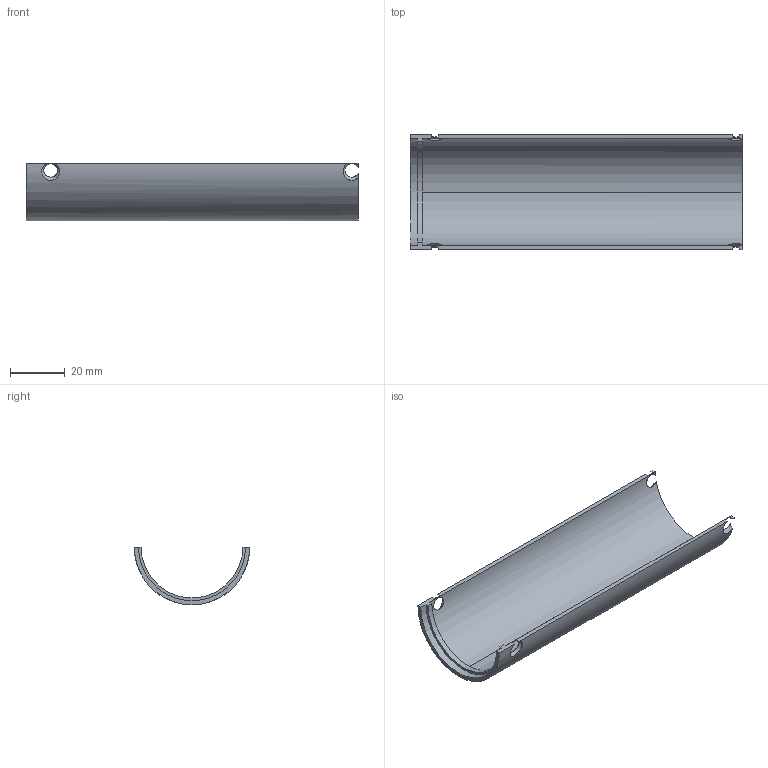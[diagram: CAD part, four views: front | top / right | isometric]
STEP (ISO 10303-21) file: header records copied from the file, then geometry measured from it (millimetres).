
FILE_DESCRIPTION(('Open CASCADE Model'),'2;1');
FILE_NAME('Open CASCADE Shape Model','2026-11-03T00:01:04',('Author'),( 'Open CASCADE'),'Open CASCADE STEP processor 8.0','build123d', 'Unknown');
FILE_SCHEMA(('AUTOMOTIVE_DESIGN { 1 0 10303 214 1 1 1 1 }'));
Length unit declared in the file: millimetre
Products named in the file (1): COMPOUND
Bounding box: 120.97 x 42 x 21 mm (x, y, z)
Volume: 11498.6 mm3; surface area: 15937.6 mm2
Topology: 1 solids, 1 shells, 25 faces, 77 edges, 52 vertices
Faces by surface type: cylinder 13, plane 8, cone 4
Entity records: 5123 total; most frequent: CARTESIAN_POINT 3741, DIRECTION 214, ORIENTED_EDGE 154, PCURVE 154, DEFINITIONAL_REPRESENTATION 154, B_SPLINE_CURVE_WITH_KNOTS 96, LINE 78, VECTOR 78
